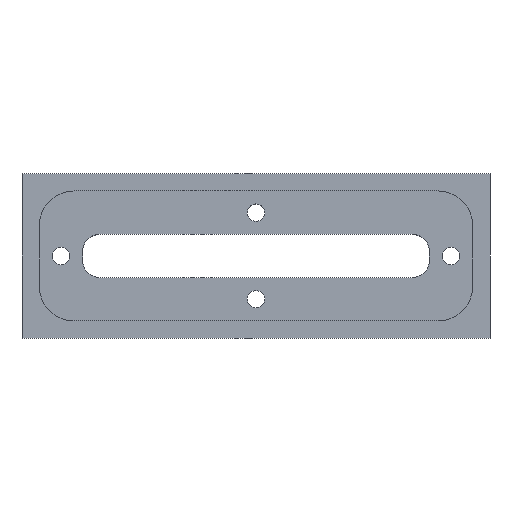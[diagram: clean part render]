
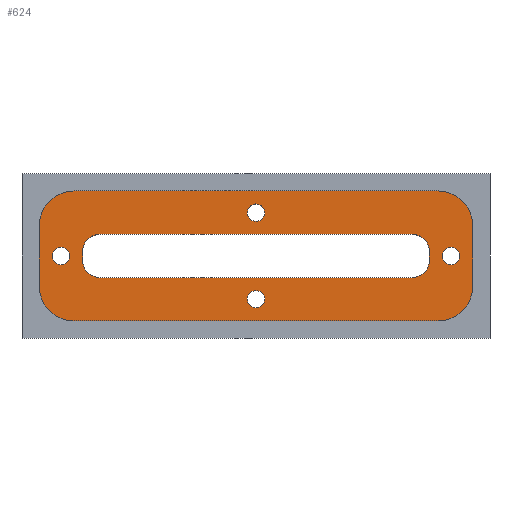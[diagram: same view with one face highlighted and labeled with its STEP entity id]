
A CAD part, top view. The second image highlights one B-rep face of the part: STEP entity #624.
In plain terms, the highlighted planar face has unit normal (0, 0, 1).
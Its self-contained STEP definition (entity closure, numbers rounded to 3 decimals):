
#25=FACE_BOUND('',#157,.T.);
#26=FACE_BOUND('',#158,.T.);
#27=FACE_BOUND('',#159,.T.);
#28=FACE_BOUND('',#160,.T.);
#29=FACE_BOUND('',#161,.T.);
#40=CIRCLE('',#667,1.);
#43=CIRCLE('',#673,1.);
#46=CIRCLE('',#679,1.);
#49=CIRCLE('',#685,1.);
#50=CIRCLE('',#688,4.);
#52=CIRCLE('',#692,4.);
#54=CIRCLE('',#696,4.);
#56=CIRCLE('',#700,4.);
#58=CIRCLE('',#705,2.);
#59=CIRCLE('',#708,2.);
#60=CIRCLE('',#711,2.);
#61=CIRCLE('',#714,2.);
#76=PLANE('',#715);
#111=FACE_OUTER_BOUND('',#156,.T.);
#156=EDGE_LOOP('',(#550,#551,#552,#553,#554,#555,#556,#557));
#157=EDGE_LOOP('',(#558));
#158=EDGE_LOOP('',(#559));
#159=EDGE_LOOP('',(#560));
#160=EDGE_LOOP('',(#561));
#161=EDGE_LOOP('',(#562,#563,#564,#565,#566,#567,#568,#569));
#186=LINE('',#1005,#234);
#191=LINE('',#1019,#239);
#195=LINE('',#1031,#243);
#199=LINE('',#1043,#247);
#203=LINE('',#1055,#251);
#206=LINE('',#1063,#254);
#209=LINE('',#1071,#257);
#212=LINE('',#1079,#260);
#234=VECTOR('',#822,10.);
#239=VECTOR('',#835,10.);
#243=VECTOR('',#847,10.);
#247=VECTOR('',#859,10.);
#251=VECTOR('',#873,10.);
#254=VECTOR('',#882,10.);
#257=VECTOR('',#891,10.);
#260=VECTOR('',#900,10.);
#284=VERTEX_POINT('',#966);
#287=VERTEX_POINT('',#977);
#290=VERTEX_POINT('',#988);
#293=VERTEX_POINT('',#999);
#294=VERTEX_POINT('',#1003);
#295=VERTEX_POINT('',#1004);
#298=VERTEX_POINT('',#1012);
#300=VERTEX_POINT('',#1018);
#302=VERTEX_POINT('',#1024);
#304=VERTEX_POINT('',#1030);
#306=VERTEX_POINT('',#1036);
#308=VERTEX_POINT('',#1042);
#310=VERTEX_POINT('',#1052);
#311=VERTEX_POINT('',#1054);
#312=VERTEX_POINT('',#1058);
#313=VERTEX_POINT('',#1062);
#314=VERTEX_POINT('',#1066);
#315=VERTEX_POINT('',#1070);
#316=VERTEX_POINT('',#1074);
#317=VERTEX_POINT('',#1078);
#346=EDGE_CURVE('',#284,#284,#40,.T.);
#351=EDGE_CURVE('',#287,#287,#43,.T.);
#356=EDGE_CURVE('',#290,#290,#46,.T.);
#361=EDGE_CURVE('',#293,#293,#49,.T.);
#362=EDGE_CURVE('',#294,#295,#186,.T.);
#366=EDGE_CURVE('',#298,#294,#50,.T.);
#369=EDGE_CURVE('',#300,#298,#191,.T.);
#372=EDGE_CURVE('',#302,#300,#52,.T.);
#375=EDGE_CURVE('',#304,#302,#195,.T.);
#378=EDGE_CURVE('',#306,#304,#54,.T.);
#381=EDGE_CURVE('',#308,#306,#199,.T.);
#384=EDGE_CURVE('',#295,#308,#56,.T.);
#387=EDGE_CURVE('',#311,#310,#203,.T.);
#389=EDGE_CURVE('',#312,#311,#58,.T.);
#391=EDGE_CURVE('',#313,#312,#206,.T.);
#393=EDGE_CURVE('',#314,#313,#59,.T.);
#395=EDGE_CURVE('',#315,#314,#209,.T.);
#397=EDGE_CURVE('',#316,#315,#60,.T.);
#399=EDGE_CURVE('',#317,#316,#212,.T.);
#401=EDGE_CURVE('',#310,#317,#61,.T.);
#550=ORIENTED_EDGE('',*,*,#362,.T.);
#551=ORIENTED_EDGE('',*,*,#384,.T.);
#552=ORIENTED_EDGE('',*,*,#381,.T.);
#553=ORIENTED_EDGE('',*,*,#378,.T.);
#554=ORIENTED_EDGE('',*,*,#375,.T.);
#555=ORIENTED_EDGE('',*,*,#372,.T.);
#556=ORIENTED_EDGE('',*,*,#369,.T.);
#557=ORIENTED_EDGE('',*,*,#366,.T.);
#558=ORIENTED_EDGE('',*,*,#346,.T.);
#559=ORIENTED_EDGE('',*,*,#351,.T.);
#560=ORIENTED_EDGE('',*,*,#356,.T.);
#561=ORIENTED_EDGE('',*,*,#361,.T.);
#562=ORIENTED_EDGE('',*,*,#401,.T.);
#563=ORIENTED_EDGE('',*,*,#399,.T.);
#564=ORIENTED_EDGE('',*,*,#397,.T.);
#565=ORIENTED_EDGE('',*,*,#395,.T.);
#566=ORIENTED_EDGE('',*,*,#393,.T.);
#567=ORIENTED_EDGE('',*,*,#391,.T.);
#568=ORIENTED_EDGE('',*,*,#389,.T.);
#569=ORIENTED_EDGE('',*,*,#387,.T.);
#624=ADVANCED_FACE('',(#111,#25,#26,#27,#28,#29),#76,.T.);
#667=AXIS2_PLACEMENT_3D('',#968,#776,#777);
#673=AXIS2_PLACEMENT_3D('',#979,#790,#791);
#679=AXIS2_PLACEMENT_3D('',#990,#804,#805);
#685=AXIS2_PLACEMENT_3D('',#1001,#818,#819);
#688=AXIS2_PLACEMENT_3D('',#1013,#828,#829);
#692=AXIS2_PLACEMENT_3D('',#1025,#840,#841);
#696=AXIS2_PLACEMENT_3D('',#1037,#852,#853);
#700=AXIS2_PLACEMENT_3D('',#1048,#864,#865);
#705=AXIS2_PLACEMENT_3D('',#1059,#877,#878);
#708=AXIS2_PLACEMENT_3D('',#1067,#886,#887);
#711=AXIS2_PLACEMENT_3D('',#1075,#895,#896);
#714=AXIS2_PLACEMENT_3D('',#1082,#904,#905);
#715=AXIS2_PLACEMENT_3D('',#1083,#906,#907);
#776=DIRECTION('center_axis',(0.,0.,-1.));
#777=DIRECTION('ref_axis',(-1.,0.,0.));
#790=DIRECTION('center_axis',(0.,0.,-1.));
#791=DIRECTION('ref_axis',(-1.,0.,0.));
#804=DIRECTION('center_axis',(0.,0.,-1.));
#805=DIRECTION('ref_axis',(-1.,0.,0.));
#818=DIRECTION('center_axis',(0.,0.,-1.));
#819=DIRECTION('ref_axis',(-1.,0.,0.));
#822=DIRECTION('',(0.,-1.,0.));
#828=DIRECTION('center_axis',(0.,0.,1.));
#829=DIRECTION('ref_axis',(0.,-1.,0.));
#835=DIRECTION('',(-1.,0.,0.));
#840=DIRECTION('center_axis',(0.,0.,1.));
#841=DIRECTION('ref_axis',(-1.,0.,0.));
#847=DIRECTION('',(0.,1.,0.));
#852=DIRECTION('center_axis',(0.,0.,1.));
#853=DIRECTION('ref_axis',(0.,1.,0.));
#859=DIRECTION('',(1.,0.,0.));
#864=DIRECTION('center_axis',(0.,0.,1.));
#865=DIRECTION('ref_axis',(1.,0.,0.));
#873=DIRECTION('',(-1.,0.,0.));
#877=DIRECTION('center_axis',(0.,0.,-1.));
#878=DIRECTION('ref_axis',(0.,1.,0.));
#882=DIRECTION('',(0.,-1.,0.));
#886=DIRECTION('center_axis',(0.,0.,-1.));
#887=DIRECTION('ref_axis',(-1.,0.,0.));
#891=DIRECTION('',(1.,0.,0.));
#895=DIRECTION('center_axis',(0.,0.,-1.));
#896=DIRECTION('ref_axis',(0.,-1.,0.));
#900=DIRECTION('',(0.,1.,0.));
#904=DIRECTION('center_axis',(0.,0.,-1.));
#905=DIRECTION('ref_axis',(1.,0.,0.));
#906=DIRECTION('center_axis',(0.,0.,1.));
#907=DIRECTION('ref_axis',(1.,0.,0.));
#966=CARTESIAN_POINT('',(23.5,0.,3.));
#968=CARTESIAN_POINT('Origin',(22.5,0.,3.));
#977=CARTESIAN_POINT('',(1.,-5.,3.));
#979=CARTESIAN_POINT('Origin',(0.,-5.,3.));
#988=CARTESIAN_POINT('',(-21.5,0.,3.));
#990=CARTESIAN_POINT('Origin',(-22.5,0.,3.));
#999=CARTESIAN_POINT('',(1.,5.,3.));
#1001=CARTESIAN_POINT('Origin',(0.,5.,3.));
#1003=CARTESIAN_POINT('',(-25.,3.5,3.));
#1004=CARTESIAN_POINT('',(-25.,-3.5,3.));
#1005=CARTESIAN_POINT('',(-25.,1.75,3.));
#1012=CARTESIAN_POINT('',(-21.,7.5,3.));
#1013=CARTESIAN_POINT('Origin',(-21.,3.5,3.));
#1018=CARTESIAN_POINT('',(21.,7.5,3.));
#1019=CARTESIAN_POINT('',(10.5,7.5,3.));
#1024=CARTESIAN_POINT('',(25.,3.5,3.));
#1025=CARTESIAN_POINT('Origin',(21.,3.5,3.));
#1030=CARTESIAN_POINT('',(25.,-3.5,3.));
#1031=CARTESIAN_POINT('',(25.,-1.75,3.));
#1036=CARTESIAN_POINT('',(21.,-7.5,3.));
#1037=CARTESIAN_POINT('Origin',(21.,-3.5,3.));
#1042=CARTESIAN_POINT('',(-21.,-7.5,3.));
#1043=CARTESIAN_POINT('',(-10.5,-7.5,3.));
#1048=CARTESIAN_POINT('Origin',(-21.,-3.5,3.));
#1052=CARTESIAN_POINT('',(-18.,-2.5,3.));
#1054=CARTESIAN_POINT('',(18.,-2.5,3.));
#1055=CARTESIAN_POINT('',(18.,-2.5,3.));
#1058=CARTESIAN_POINT('',(20.,-0.5,3.));
#1059=CARTESIAN_POINT('Origin',(18.,-0.5,3.));
#1062=CARTESIAN_POINT('',(20.,0.5,3.));
#1063=CARTESIAN_POINT('',(20.,0.5,3.));
#1066=CARTESIAN_POINT('',(18.,2.5,3.));
#1067=CARTESIAN_POINT('Origin',(18.,0.5,3.));
#1070=CARTESIAN_POINT('',(-18.,2.5,3.));
#1071=CARTESIAN_POINT('',(-18.,2.5,3.));
#1074=CARTESIAN_POINT('',(-20.,0.5,3.));
#1075=CARTESIAN_POINT('Origin',(-18.,0.5,3.));
#1078=CARTESIAN_POINT('',(-20.,-0.5,3.));
#1079=CARTESIAN_POINT('',(-20.,-0.5,3.));
#1082=CARTESIAN_POINT('Origin',(-18.,-0.5,3.));
#1083=CARTESIAN_POINT('Origin',(0.,0.,3.));
